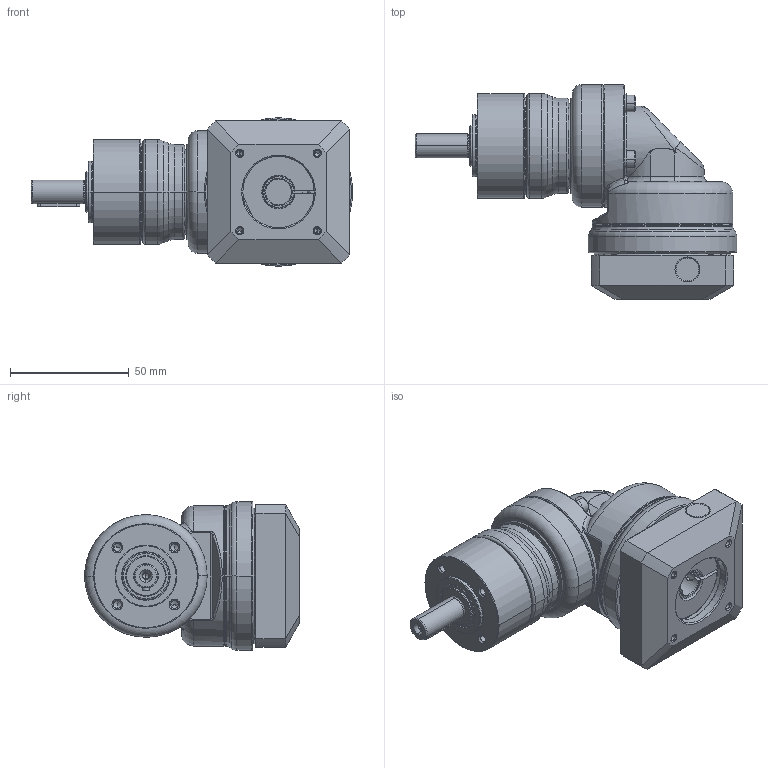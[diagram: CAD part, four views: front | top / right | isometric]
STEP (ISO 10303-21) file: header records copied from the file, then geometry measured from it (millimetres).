
FILE_DESCRIPTION((''),'2;1');
FILE_NAME('PG2R-040_1ST_11-P0411200101_ASM','2016-04-20T',('d01943'),(''),'PRO/ENGINEER BY PARAMETRIC TECHNOLOGY CORPORATION, 2008410','PRO/ENGINEER BY PARAMETRIC TECHNOLOGY CORPORATION, 2008410','');
FILE_SCHEMA(('CONFIG_CONTROL_DESIGN'));
Length unit declared in the file: millimetre
Products named in the file (12): P1325100001; P0250100001; P0350101103; P1349100001; P1017100001; P0713101001; P0503200005; P1350100101; P0411200101; P1702300001; 2111B104015; PG2R-040_1ST_11-P0411200101_ASM
Assembly tree (14 placements, depth 2):
  PG2R-040_1ST_11-P0411200101_ASM
    P1325100001
    P0250100001
    P0350101103
    P1349100001
    P1017100001
    P0713101001
    P0503200005
    P1350100101
    P0411200101
    P1702300001
    2111B104015  x4
Bounding box: 135.25 x 90.25 x 62.5 mm (x, y, z)
Volume: 183678.1 mm3; surface area: 74415 mm2
Topology: 14 solids, 15 shells, 735 faces, 1610 edges, 929 vertices
Faces by surface type: cylinder 222, cone 214, plane 162, torus 102, bspline 35
Entity records: 23163 total; most frequent: CARTESIAN_POINT 8984, DIRECTION 3153, ORIENTED_EDGE 2732, EDGE_CURVE 1366, AXIS2_PLACEMENT_3D 1333, VERTEX_POINT 809, EDGE_LOOP 719, CIRCLE 706
